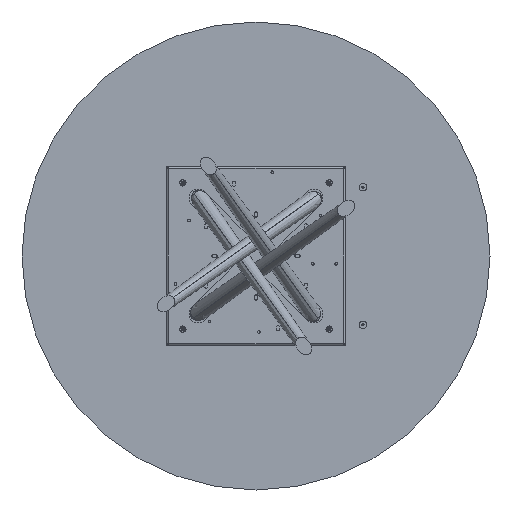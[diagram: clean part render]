
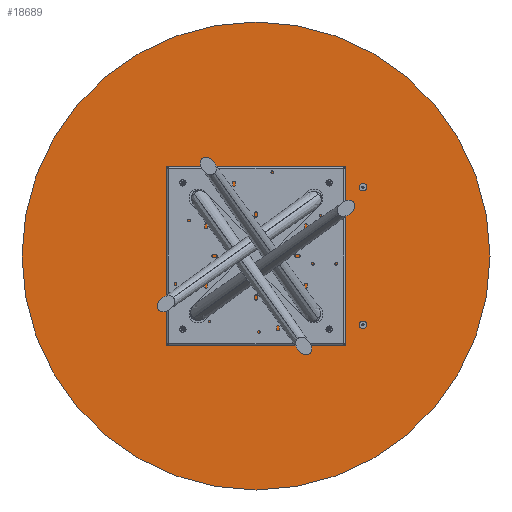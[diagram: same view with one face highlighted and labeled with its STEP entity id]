
A CAD part, front view. The second image highlights one B-rep face of the part: STEP entity #18689.
In plain terms, the highlighted planar face has unit normal (0, -1, 0).
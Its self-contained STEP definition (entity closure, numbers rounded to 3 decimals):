
#1016 = EDGE_CURVE ( 'NONE', #3831, #4994, #17967, .T. ) ;
#1749 = DIRECTION ( 'NONE',  ( 0., -1., 0. ) ) ;
#1913 = DIRECTION ( 'NONE',  ( 0., 0., -1. ) ) ;
#3376 = CARTESIAN_POINT ( 'NONE',  ( 0., 0., 900. ) ) ;
#3831 = VERTEX_POINT ( 'NONE', #4931 ) ;
#4485 = DIRECTION ( 'NONE',  ( 0., -1., 0. ) ) ;
#4576 = CARTESIAN_POINT ( 'NONE',  ( 0., 0., 0. ) ) ;
#4876 = PLANE ( 'NONE',  #10150 ) ;
#4931 = CARTESIAN_POINT ( 'NONE',  ( 0., 0., -900. ) ) ;
#4994 = VERTEX_POINT ( 'NONE', #3376 ) ;
#6064 = ORIENTED_EDGE ( 'NONE', *, *, #13921, .T. ) ;
#6145 = AXIS2_PLACEMENT_3D ( 'NONE', #17930, #10500, #11819 ) ;
#7622 = CARTESIAN_POINT ( 'NONE',  ( 0., 0., 0. ) ) ;
#9463 = CIRCLE ( 'NONE', #13995, 900. ) ;
#10150 = AXIS2_PLACEMENT_3D ( 'NONE', #7622, #1749, #10660 ) ;
#10479 = FACE_OUTER_BOUND ( 'NONE', #18221, .T. ) ;
#10500 = DIRECTION ( 'NONE',  ( 0., -1., 0. ) ) ;
#10660 = DIRECTION ( 'NONE',  ( 0., 0., -1. ) ) ;
#11451 = ORIENTED_EDGE ( 'NONE', *, *, #1016, .T. ) ;
#11819 = DIRECTION ( 'NONE',  ( 0., 0., -1. ) ) ;
#13921 = EDGE_CURVE ( 'NONE', #4994, #3831, #9463, .T. ) ;
#13995 = AXIS2_PLACEMENT_3D ( 'NONE', #4576, #4485, #1913 ) ;
#17930 = CARTESIAN_POINT ( 'NONE',  ( 0., 0., 0. ) ) ;
#17967 = CIRCLE ( 'NONE', #6145, 900. ) ;
#18221 = EDGE_LOOP ( 'NONE', ( #11451, #6064 ) ) ;
#18689 = ADVANCED_FACE ( 'NONE', ( #10479 ), #4876, .T. ) ;
